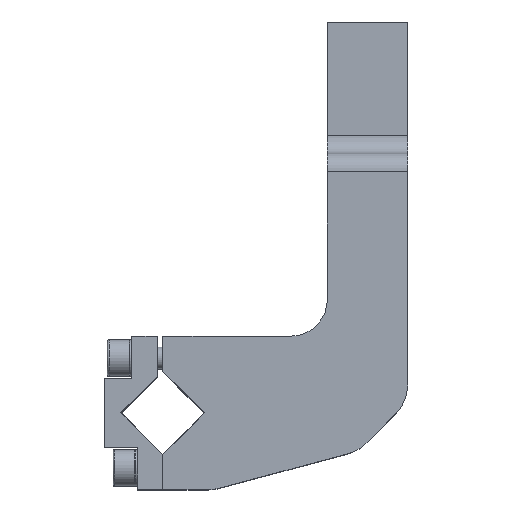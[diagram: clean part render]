
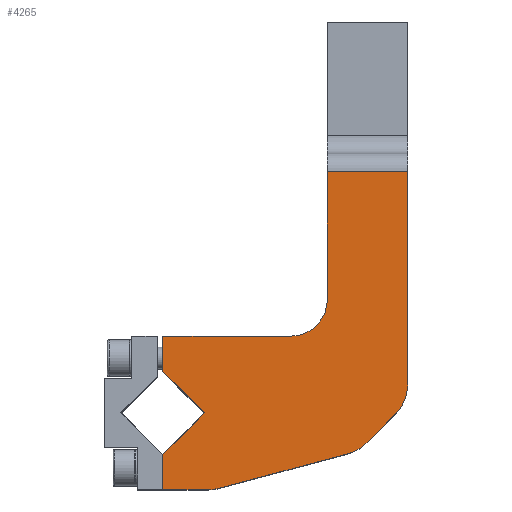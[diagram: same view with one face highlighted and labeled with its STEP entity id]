
A CAD part, top view. The second image highlights one B-rep face of the part: STEP entity #4265.
In plain terms, the highlighted planar face has unit normal (0, 0, 1).
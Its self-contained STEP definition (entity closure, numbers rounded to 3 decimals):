
#560=CARTESIAN_POINT('Vertex',(67.,7.971,27.)) ;
#563=CARTESIAN_POINT('Axis2P3D Location',(55.,7.971,27.)) ;
#567=CARTESIAN_POINT('Vertex',(63.485,-0.515,27.)) ;
#1143=CARTESIAN_POINT('Vertex',(0.,21.,27.)) ;
#1146=CARTESIAN_POINT('Line Origine',(17.5,21.,27.)) ;
#1150=CARTESIAN_POINT('Vertex',(35.,21.,27.)) ;
#1165=CARTESIAN_POINT('Axis2P3D Location',(35.,31.,27.)) ;
#1169=CARTESIAN_POINT('Vertex',(45.,31.,27.)) ;
#1184=CARTESIAN_POINT('Line Origine',(59.687,-4.313,27.)) ;
#1188=CARTESIAN_POINT('Vertex',(55.888,-8.112,27.)) ;
#1203=CARTESIAN_POINT('Axis2P3D Location',(47.403,0.374,27.)) ;
#1207=CARTESIAN_POINT('Vertex',(50.509,-11.217,27.)) ;
#1222=CARTESIAN_POINT('Line Origine',(33.017,-15.904,27.)) ;
#1226=CARTESIAN_POINT('Vertex',(15.526,-20.591,27.)) ;
#1241=CARTESIAN_POINT('Axis2P3D Location',(12.42,-9.,27.)) ;
#1245=CARTESIAN_POINT('Vertex',(12.42,-21.,27.)) ;
#1260=CARTESIAN_POINT('Line Origine',(6.21,-21.,27.)) ;
#1264=CARTESIAN_POINT('Vertex',(0.,-21.,27.)) ;
#3849=CARTESIAN_POINT('Vertex',(0.,11.455,27.)) ;
#3852=CARTESIAN_POINT('Line Origine',(0.,16.228,27.)) ;
#3873=CARTESIAN_POINT('Vertex',(0.,-11.455,27.)) ;
#3876=CARTESIAN_POINT('Line Origine',(0.,-16.228,27.)) ;
#3902=CARTESIAN_POINT('Vertex',(11.455,0.,27.)) ;
#3905=CARTESIAN_POINT('Line Origine',(5.728,5.728,27.)) ;
#3922=CARTESIAN_POINT('Line Origine',(5.728,-5.728,27.)) ;
#4110=CARTESIAN_POINT('Vertex',(67.,66.,27.)) ;
#4115=CARTESIAN_POINT('Line Origine',(67.,36.985,27.)) ;
#4194=CARTESIAN_POINT('Vertex',(45.,66.,27.)) ;
#4197=CARTESIAN_POINT('Line Origine',(45.,48.5,27.)) ;
#4238=CARTESIAN_POINT('Axis2P3D Location',(0.,0.,27.)) ;
#4243=CARTESIAN_POINT('Line Origine',(56.,66.,27.)) ;
#564=DIRECTION('Axis2P3D Direction',(0.,0.,1.)) ;
#1147=DIRECTION('Vector Direction',(1.,0.,0.)) ;
#1166=DIRECTION('Axis2P3D Direction',(0.,0.,1.)) ;
#1185=DIRECTION('Vector Direction',(-0.707,-0.707,0.)) ;
#1204=DIRECTION('Axis2P3D Direction',(0.,0.,1.)) ;
#1223=DIRECTION('Vector Direction',(-0.966,-0.259,0.)) ;
#1242=DIRECTION('Axis2P3D Direction',(0.,0.,1.)) ;
#1261=DIRECTION('Vector Direction',(-1.,0.,0.)) ;
#3853=DIRECTION('Vector Direction',(0.,1.,0.)) ;
#3877=DIRECTION('Vector Direction',(0.,1.,0.)) ;
#3906=DIRECTION('Vector Direction',(0.707,-0.707,0.)) ;
#3923=DIRECTION('Vector Direction',(-0.707,-0.707,0.)) ;
#4116=DIRECTION('Vector Direction',(0.,-1.,0.)) ;
#4198=DIRECTION('Vector Direction',(0.,1.,0.)) ;
#4239=DIRECTION('Axis2P3D Direction',(0.,0.,1.)) ;
#4240=DIRECTION('Axis2P3D XDirection',(1.,0.,0.)) ;
#4244=DIRECTION('Vector Direction',(1.,0.,0.)) ;
#565=AXIS2_PLACEMENT_3D('Circle Axis2P3D',#563,#564,$) ;
#1167=AXIS2_PLACEMENT_3D('Circle Axis2P3D',#1165,#1166,$) ;
#1205=AXIS2_PLACEMENT_3D('Circle Axis2P3D',#1203,#1204,$) ;
#1243=AXIS2_PLACEMENT_3D('Circle Axis2P3D',#1241,#1242,$) ;
#4241=AXIS2_PLACEMENT_3D('Plane Axis2P3D',#4238,#4239,#4240) ;
#4249=ORIENTED_EDGE('',*,*,#4201,.T.) ;
#4250=ORIENTED_EDGE('',*,*,#1171,.T.) ;
#4251=ORIENTED_EDGE('',*,*,#1152,.T.) ;
#4252=ORIENTED_EDGE('',*,*,#3856,.T.) ;
#4253=ORIENTED_EDGE('',*,*,#3909,.T.) ;
#4254=ORIENTED_EDGE('',*,*,#3926,.T.) ;
#4255=ORIENTED_EDGE('',*,*,#3880,.T.) ;
#4256=ORIENTED_EDGE('',*,*,#1266,.T.) ;
#4257=ORIENTED_EDGE('',*,*,#1247,.T.) ;
#4258=ORIENTED_EDGE('',*,*,#1228,.T.) ;
#4259=ORIENTED_EDGE('',*,*,#1209,.T.) ;
#4260=ORIENTED_EDGE('',*,*,#1190,.T.) ;
#4261=ORIENTED_EDGE('',*,*,#569,.T.) ;
#4262=ORIENTED_EDGE('',*,*,#4119,.T.) ;
#4263=ORIENTED_EDGE('',*,*,#4247,.F.) ;
#1148=VECTOR('Line Direction',#1147,1.) ;
#1186=VECTOR('Line Direction',#1185,1.) ;
#1224=VECTOR('Line Direction',#1223,1.) ;
#1262=VECTOR('Line Direction',#1261,1.) ;
#3854=VECTOR('Line Direction',#3853,1.) ;
#3878=VECTOR('Line Direction',#3877,1.) ;
#3907=VECTOR('Line Direction',#3906,1.) ;
#3924=VECTOR('Line Direction',#3923,1.) ;
#4117=VECTOR('Line Direction',#4116,1.) ;
#4199=VECTOR('Line Direction',#4198,1.) ;
#4245=VECTOR('Line Direction',#4244,1.) ;
#4265=ADVANCED_FACE('Brep With Voids',(#4264),#4242,.T.) ;
#566=CIRCLE('generated circle',#565,12.) ;
#1168=CIRCLE('generated circle',#1167,10.) ;
#1206=CIRCLE('generated circle',#1205,12.) ;
#1244=CIRCLE('generated circle',#1243,12.) ;
#569=EDGE_CURVE('',#568,#561,#566,.T.) ;
#1152=EDGE_CURVE('',#1151,#1144,#1149,.F.) ;
#1171=EDGE_CURVE('',#1170,#1151,#1168,.F.) ;
#1190=EDGE_CURVE('',#1189,#568,#1187,.F.) ;
#1209=EDGE_CURVE('',#1208,#1189,#1206,.T.) ;
#1228=EDGE_CURVE('',#1227,#1208,#1225,.F.) ;
#1247=EDGE_CURVE('',#1246,#1227,#1244,.T.) ;
#1266=EDGE_CURVE('',#1265,#1246,#1263,.F.) ;
#3856=EDGE_CURVE('',#1144,#3850,#3855,.F.) ;
#3880=EDGE_CURVE('',#3874,#1265,#3879,.F.) ;
#3909=EDGE_CURVE('',#3850,#3903,#3908,.T.) ;
#3926=EDGE_CURVE('',#3903,#3874,#3925,.T.) ;
#4119=EDGE_CURVE('',#561,#4111,#4118,.F.) ;
#4201=EDGE_CURVE('',#4195,#1170,#4200,.F.) ;
#4247=EDGE_CURVE('',#4195,#4111,#4246,.T.) ;
#4248=EDGE_LOOP('',(#4249,#4250,#4251,#4252,#4253,#4254,#4255,#4256,#4257,#4258,#4259,#4260,#4261,#4262,#4263)) ;
#4264=FACE_OUTER_BOUND('',#4248,.T.) ;
#1149=LINE('Line',#1146,#1148) ;
#1187=LINE('Line',#1184,#1186) ;
#1225=LINE('Line',#1222,#1224) ;
#1263=LINE('Line',#1260,#1262) ;
#3855=LINE('Line',#3852,#3854) ;
#3879=LINE('Line',#3876,#3878) ;
#3908=LINE('Line',#3905,#3907) ;
#3925=LINE('Line',#3922,#3924) ;
#4118=LINE('Line',#4115,#4117) ;
#4200=LINE('Line',#4197,#4199) ;
#4246=LINE('Line',#4243,#4245) ;
#4242=PLANE('Plane',#4241) ;
#561=VERTEX_POINT('',#560) ;
#568=VERTEX_POINT('',#567) ;
#1144=VERTEX_POINT('',#1143) ;
#1151=VERTEX_POINT('',#1150) ;
#1170=VERTEX_POINT('',#1169) ;
#1189=VERTEX_POINT('',#1188) ;
#1208=VERTEX_POINT('',#1207) ;
#1227=VERTEX_POINT('',#1226) ;
#1246=VERTEX_POINT('',#1245) ;
#1265=VERTEX_POINT('',#1264) ;
#3850=VERTEX_POINT('',#3849) ;
#3874=VERTEX_POINT('',#3873) ;
#3903=VERTEX_POINT('',#3902) ;
#4111=VERTEX_POINT('',#4110) ;
#4195=VERTEX_POINT('',#4194) ;
